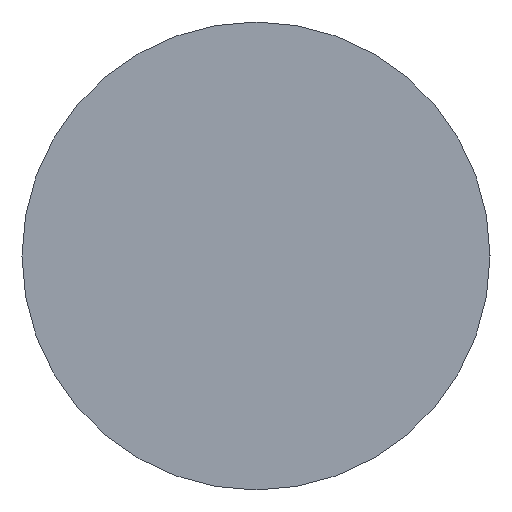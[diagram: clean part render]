
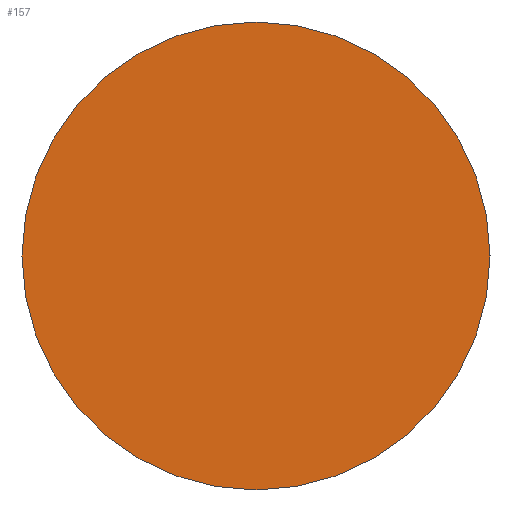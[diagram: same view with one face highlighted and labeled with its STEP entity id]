
A CAD part, left-side view. The second image highlights one B-rep face of the part: STEP entity #157.
In plain terms, the highlighted planar face has unit normal (-1, 0, 0).
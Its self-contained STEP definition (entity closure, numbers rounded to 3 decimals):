
#129 = VERTEX_POINT('',#130);
#130 = CARTESIAN_POINT('',(-1528.,0.,20.8));
#136 = EDGE_CURVE('',#129,#129,#137,.T.);
#137 = CIRCLE('',#138,20.8);
#138 = AXIS2_PLACEMENT_3D('',#139,#140,#141);
#139 = CARTESIAN_POINT('',(-1528.,0.,0.));
#140 = DIRECTION('',(1.,0.,0.));
#141 = DIRECTION('',(-0.,0.,1.));
#157 = ADVANCED_FACE('',(#158),#161,.F.);
#158 = FACE_BOUND('',#159,.T.);
#159 = EDGE_LOOP('',(#160));
#160 = ORIENTED_EDGE('',*,*,#136,.F.);
#161 = PLANE('',#162);
#162 = AXIS2_PLACEMENT_3D('',#163,#164,#165);
#163 = CARTESIAN_POINT('',(-1528.,0.,0.));
#164 = DIRECTION('',(1.,0.,0.));
#165 = DIRECTION('',(-0.,0.,1.));
